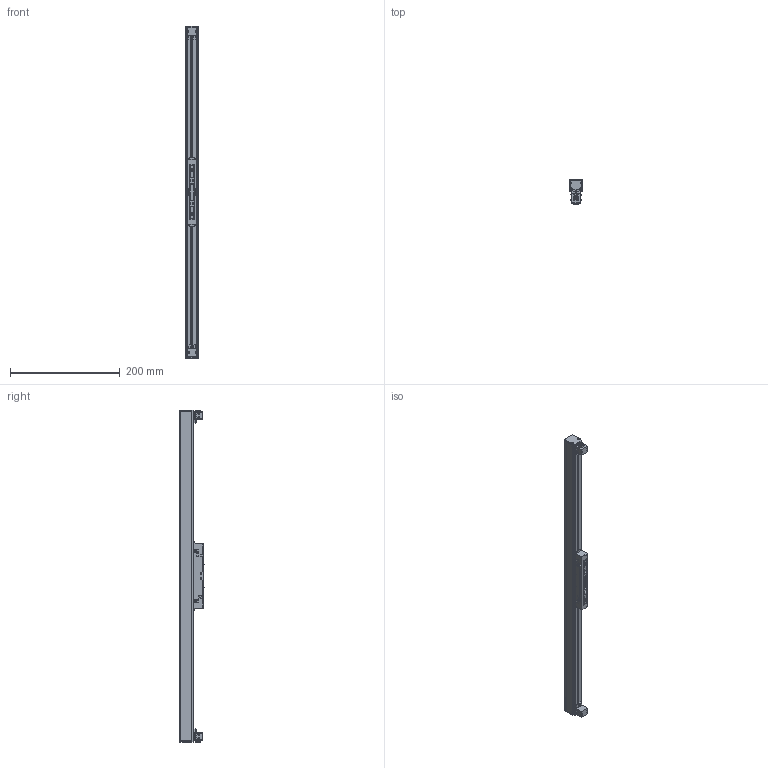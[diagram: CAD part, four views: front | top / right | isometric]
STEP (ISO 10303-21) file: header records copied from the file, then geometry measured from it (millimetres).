
FILE_DESCRIPTION (( 'STEP AP203' ), '1' );
FILE_NAME ('410099.STEP', '2021-10-29T01:57:02', ( '微软用户' ), ( '微软中国' ), 'SwSTEP 2.0', 'SolidWorks 2014', '' );
FILE_SCHEMA (( 'CONFIG_CONTROL_DESIGN' ));
Length unit declared in the file: millimetre
Products named in the file (21): 滓嫖腑极-600ㄗ湍怢論ㄘ; MANIFOLD_SOLID_BREP_45179; 黑芛掖蝶ㄗ湍怢論ㄘ; MANIFOLD_SOLID_BREP_53625; 埴芛坋趼蹟佪M3X6; 滓嫖黑芛ㄗ湍怢論ㄘ; 08-22-W1_37_ASM; PET毀嫖祧-600; 滓嫖醱欶-600; 03_X_T; MANIFOLD_SOLID_BREP_5134_2; 臏價啣-410055; 沉头十字自攻螺丝M3X6; MANIFOLD_SOLID_BREP_5136_8; ｳﾁﾍｷﾊｮﾗﾖﾗﾔｹ･ﾂﾝﾋｿ M2.5X8; 20磁吸（无推钮）短款电源盒：GN-CX01-7-2; MANIFOLD_SOLID_BREP_41700; 安全扣：GN-CX01-10; 410099; DK-1_0406A_14_59_ASM; 08-20-PC1_6
Assembly tree (29 placements, depth 4):
  410099
    滓嫖腑极-600ㄗ湍怢論ㄘ
    黑芛掖蝶ㄗ湍怢論ㄘ  x2
    滓嫖黑芛ㄗ湍怢論ㄘ  x2
    滓嫖醱欶-600
    臏價啣-410055
    ｳﾁﾍｷﾊｮﾗﾖﾗﾔｹ･ﾂﾝﾋｿ M2.5X8  x4
    安全扣：GN-CX01-10  x2
    埴芛坋趼蹟佪M3X6  x2
    PET毀嫖祧-600  x2
    20磁吸（无推钮）短款电源盒：GN-CX01-7-2
      MANIFOLD_SOLID_BREP_5134_2
      MANIFOLD_SOLID_BREP_5136_8
      DK-1_0406A_14_59_ASM
        MANIFOLD_SOLID_BREP_41700
      08-20-PC1_6
      08-22-W1_37_ASM
        MANIFOLD_SOLID_BREP_45179
        MANIFOLD_SOLID_BREP_53625
      03_X_T
      沉头十字自攻螺丝M3X6  x2
Bounding box: 22 x 44.2 x 604.4 mm (x, y, z)
Volume: 144755.8 mm3; surface area: 213974.6 mm2
Topology: 25 solids, 27 shells, 2571 faces, 6686 edges, 4378 vertices
Faces by surface type: plane 2020, cylinder 405, cone 64, bspline 60, torus 14, sphere 8
Entity records: 75352 total; most frequent: CARTESIAN_POINT 16513, ORIENTED_EDGE 12020, DIRECTION 10743, EDGE_CURVE 6013, VECTOR 5095, LINE 5095, VERTEX_POINT 3965, AXIS2_PLACEMENT_3D 2824
